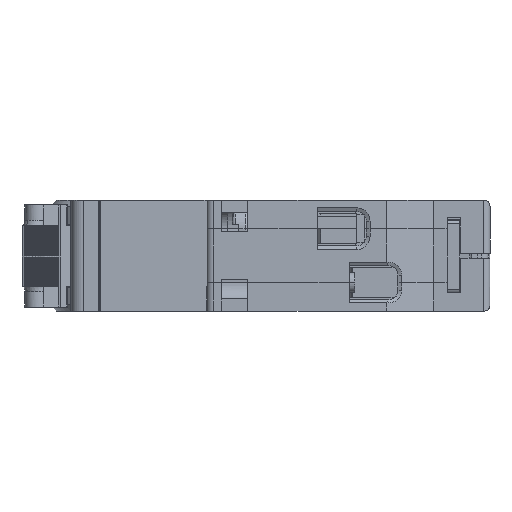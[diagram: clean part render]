
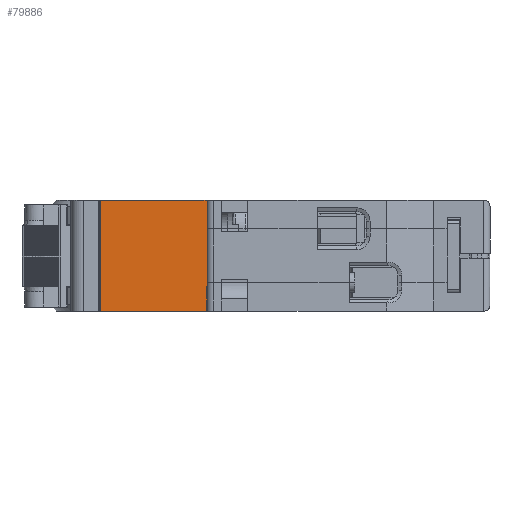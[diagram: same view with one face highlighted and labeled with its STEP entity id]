
A CAD part, left-side view. The second image highlights one B-rep face of the part: STEP entity #79886.
In plain terms, the highlighted planar face has unit normal (-1, 0, 0).
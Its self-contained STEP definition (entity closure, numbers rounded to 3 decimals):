
#1490 = CARTESIAN_POINT ( 'NONE',  ( -13.95, -22.25, 6.3 ) ) ;
#1492 = DIRECTION ( 'NONE',  ( 0., 0., 1. ) ) ;
#1584 = CARTESIAN_POINT ( 'NONE',  ( -13.95, -0.2, 13. ) ) ;
#1586 = DIRECTION ( 'NONE',  ( 0., 0., -1. ) ) ;
#1589 = CARTESIAN_POINT ( 'NONE',  ( -13.95, -16.9, -16.028 ) ) ;
#1591 = DIRECTION ( 'NONE',  ( 0., 0., 1. ) ) ;
#3713 = PLANE ( 'NONE',  #84068 ) ;
#3714 = CARTESIAN_POINT ( 'NONE',  ( -13.95, -12.25, 12.9 ) ) ;
#3715 = DIRECTION ( 'NONE',  ( -1., 0., 0. ) ) ;
#3716 = DIRECTION ( 'NONE',  ( 0., 0., -1. ) ) ;
#8770 = ORIENTED_EDGE ( 'NONE', *, *, #80472, .T. ) ;
#8772 = ORIENTED_EDGE ( 'NONE', *, *, #108932, .F. ) ;
#8773 = ORIENTED_EDGE ( 'NONE', *, *, #108952, .T. ) ;
#8775 = ORIENTED_EDGE ( 'NONE', *, *, #109187, .T. ) ;
#8776 = ORIENTED_EDGE ( 'NONE', *, *, #109292, .F. ) ;
#8778 = ORIENTED_EDGE ( 'NONE', *, *, #80473, .T. ) ;
#8779 = ORIENTED_EDGE ( 'NONE', *, *, #30358, .F. ) ;
#8781 = ORIENTED_EDGE ( 'NONE', *, *, #109469, .T. ) ;
#8783 = ORIENTED_EDGE ( 'NONE', *, *, #30362, .T. ) ;
#8785 = ORIENTED_EDGE ( 'NONE', *, *, #80454, .T. ) ;
#30358 = EDGE_CURVE ( 'NONE', #76445, #76446, #58899, .T. ) ;
#30362 = EDGE_CURVE ( 'NONE', #49044, #76446, #58903, .T. ) ;
#34196 = VECTOR ( 'NONE', #45151, 1000. ) ;
#34244 = VECTOR ( 'NONE', #45195, 1000. ) ;
#34869 = VECTOR ( 'NONE', #122175, 1000. ) ;
#35349 = VECTOR ( 'NONE', #75620, 1000. ) ;
#35364 = VECTOR ( 'NONE', #75628, 1000. ) ;
#45150 = CARTESIAN_POINT ( 'NONE',  ( -13.95, -12.25, 8.5 ) ) ;
#45151 = DIRECTION ( 'NONE',  ( 0., -1., 0. ) ) ;
#45194 = CARTESIAN_POINT ( 'NONE',  ( -13.95, -16.95, -31.922 ) ) ;
#45195 = DIRECTION ( 'NONE',  ( 0., 0., 1. ) ) ;
#46980 = EDGE_LOOP ( 'NONE', ( #8772, #8773, #8775, #8770, #8776, #8778, #8781, #8783, #8779, #8785 ) ) ;
#49044 = VERTEX_POINT ( 'NONE', #54484 ) ;
#49045 = VERTEX_POINT ( 'NONE', #54485 ) ;
#49180 = VERTEX_POINT ( 'NONE', #54614 ) ;
#49181 = VERTEX_POINT ( 'NONE', #54615 ) ;
#54484 = CARTESIAN_POINT ( 'NONE',  ( -13.95, -17.7, -0.65 ) ) ;
#54485 = CARTESIAN_POINT ( 'NONE',  ( -13.95, -16.9, -0.65 ) ) ;
#54614 = CARTESIAN_POINT ( 'NONE',  ( -13.95, -0.2, -4.5 ) ) ;
#54615 = CARTESIAN_POINT ( 'NONE',  ( -13.95, -16.9, -4.5 ) ) ;
#56323 = CARTESIAN_POINT ( 'NONE',  ( -13.95, -22.25, 6.8 ) ) ;
#56324 = CARTESIAN_POINT ( 'NONE',  ( -13.95, -17.7, 6.8 ) ) ;
#56628 = FACE_OUTER_BOUND ( 'NONE', #46980, .T. ) ;
#57162 = LINE ( 'NONE', #1490, #59959 ) ;
#57178 = LINE ( 'NONE', #1584, #59978 ) ;
#57179 = LINE ( 'NONE', #1589, #59979 ) ;
#58899 = LINE ( 'NONE', #75619, #35349 ) ;
#58903 = LINE ( 'NONE', #75627, #35364 ) ;
#59959 = VECTOR ( 'NONE', #1492, 1000. ) ;
#59978 = VECTOR ( 'NONE', #1586, 1000. ) ;
#59979 = VECTOR ( 'NONE', #1591, 1000. ) ;
#75619 = CARTESIAN_POINT ( 'NONE',  ( -13.95, -18.25, 6.8 ) ) ;
#75620 = DIRECTION ( 'NONE',  ( 0., 1., 0. ) ) ;
#75627 = CARTESIAN_POINT ( 'NONE',  ( -13.95, -17.7, 6. ) ) ;
#75628 = DIRECTION ( 'NONE',  ( 0., 0., 1. ) ) ;
#76445 = VERTEX_POINT ( 'NONE', #56323 ) ;
#76446 = VERTEX_POINT ( 'NONE', #56324 ) ;
#79886 = ADVANCED_FACE ( 'NONE', ( #56628 ), #3713, .T. ) ;
#80454 = EDGE_CURVE ( 'NONE', #76445, #116075, #57162, .T. ) ;
#80472 = EDGE_CURVE ( 'NONE', #116399, #49180, #57178, .T. ) ;
#80473 = EDGE_CURVE ( 'NONE', #49181, #49045, #57179, .T. ) ;
#81776 = CARTESIAN_POINT ( 'NONE',  ( -13.95, -16.95, 8.5 ) ) ;
#81777 = CARTESIAN_POINT ( 'NONE',  ( -13.95, -22.25, 8.5 ) ) ;
#81794 = CARTESIAN_POINT ( 'NONE',  ( -13.95, -16.95, 13. ) ) ;
#81966 = CARTESIAN_POINT ( 'NONE',  ( -13.95, -0.2, 13. ) ) ;
#84068 = AXIS2_PLACEMENT_3D ( 'NONE', #3714, #3715, #3716 ) ;
#89563 = CARTESIAN_POINT ( 'NONE',  ( -13.95, -12.25, -0.65 ) ) ;
#89564 = DIRECTION ( 'NONE',  ( 0., -1., 0. ) ) ;
#108932 = EDGE_CURVE ( 'NONE', #116073, #116075, #112120, .T. ) ;
#108952 = EDGE_CURVE ( 'NONE', #116073, #116109, #112136, .T. ) ;
#109187 = EDGE_CURVE ( 'NONE', #116109, #116399, #112321, .T. ) ;
#109292 = EDGE_CURVE ( 'NONE', #49181, #49180, #112405, .T. ) ;
#109469 = EDGE_CURVE ( 'NONE', #49045, #49044, #129234, .T. ) ;
#112120 = LINE ( 'NONE', #45150, #34196 ) ;
#112136 = LINE ( 'NONE', #45194, #34244 ) ;
#112321 = LINE ( 'NONE', #122173, #34869 ) ;
#112405 = LINE ( 'NONE', #122861, #123733 ) ;
#116073 = VERTEX_POINT ( 'NONE', #81776 ) ;
#116075 = VERTEX_POINT ( 'NONE', #81777 ) ;
#116109 = VERTEX_POINT ( 'NONE', #81794 ) ;
#116399 = VERTEX_POINT ( 'NONE', #81966 ) ;
#122173 = CARTESIAN_POINT ( 'NONE',  ( -13.95, -12.25, 13. ) ) ;
#122175 = DIRECTION ( 'NONE',  ( 0., 1., 0. ) ) ;
#122861 = CARTESIAN_POINT ( 'NONE',  ( -13.95, 2.1, -4.5 ) ) ;
#122863 = DIRECTION ( 'NONE',  ( 0., 1., 0. ) ) ;
#123733 = VECTOR ( 'NONE', #122863, 1000. ) ;
#124628 = VECTOR ( 'NONE', #89564, 1000. ) ;
#129234 = LINE ( 'NONE', #89563, #124628 ) ;
